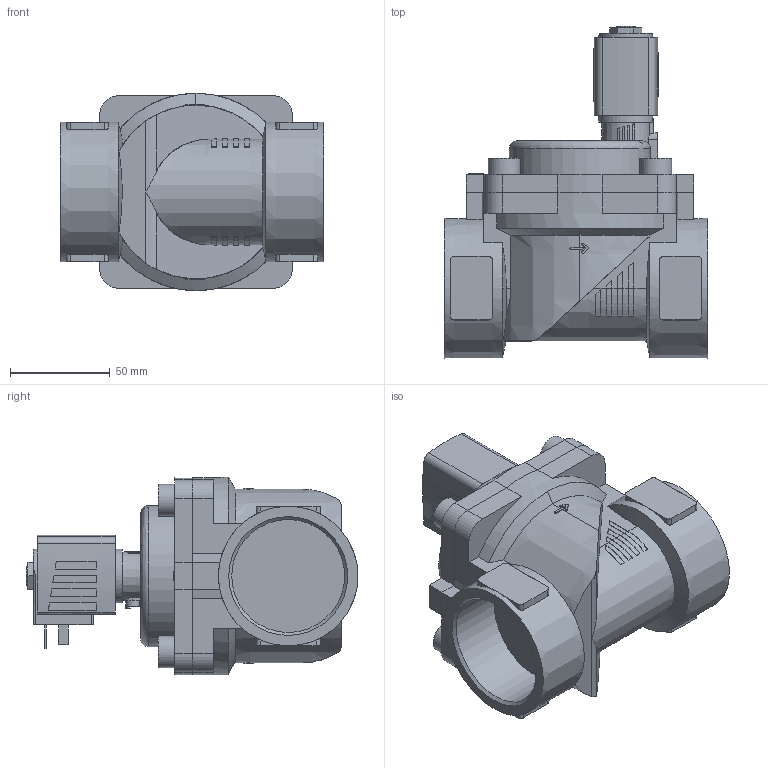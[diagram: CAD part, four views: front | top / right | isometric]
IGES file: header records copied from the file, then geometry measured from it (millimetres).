
Start section: Data from Parasolid IGES Translator 26.0.171, Copyright(c) 2006 Siemens PLM Software. All Rights Reserved.
Global section: file name: 6281-266199-2_2-Way_Solenoid_Valve__Servo-assisted__General_Purpose.igs; native system: By Siemens PLM Incorporated; preprocessor: XPlus GENERIC/IGES 26.0.171; author: Noname; organization: Noname; date: 20240829.235142; units: millimetre
Bounding box: 132 x 166.5 x 99 mm (x, y, z)
Surface area: 102723.5 mm2 (no closed solid volume)
Topology: 0 solids, 0 shells, 382 faces, 2016 edges, 1997 vertices
Faces by surface type: extrusion 251, revolution 131
